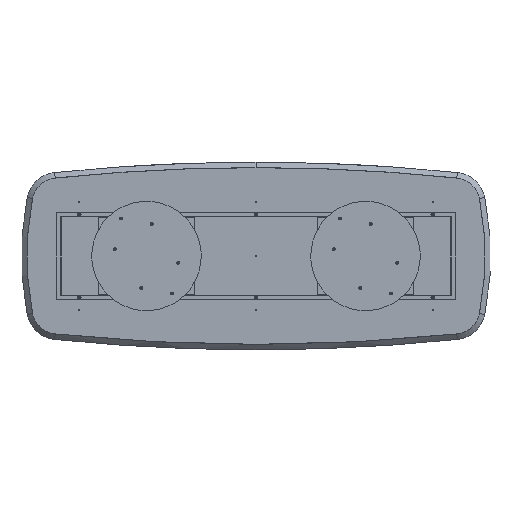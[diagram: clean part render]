
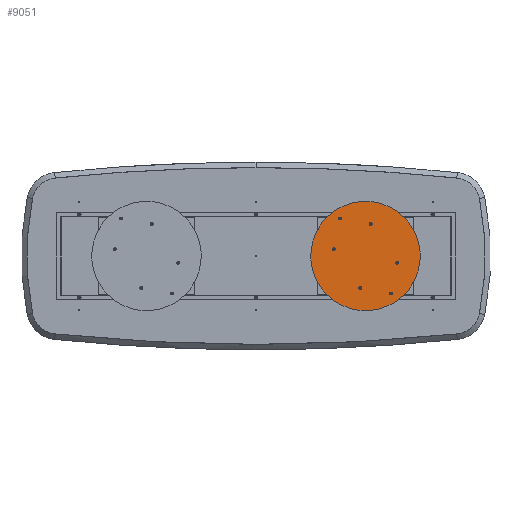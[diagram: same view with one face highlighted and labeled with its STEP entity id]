
A CAD part, front view. The second image highlights one B-rep face of the part: STEP entity #9051.
In plain terms, the highlighted planar face has unit normal (0, -1, 0).
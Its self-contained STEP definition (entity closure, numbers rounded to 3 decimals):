
#17 = EDGE_CURVE ( 'NONE', #19366, #8028, #12436, .T. ) ;
#266 = VERTEX_POINT ( 'NONE', #7503 ) ;
#972 = VERTEX_POINT ( 'NONE', #2990 ) ;
#976 = FACE_BOUND ( 'NONE', #16710, .T. ) ;
#1456 = AXIS2_PLACEMENT_3D ( 'NONE', #4798, #14311, #10478 ) ;
#1470 = CIRCLE ( 'NONE', #7011, 8.65 ) ;
#1703 = CARTESIAN_POINT ( 'NONE',  ( -290., 0., 0. ) ) ;
#1707 = DIRECTION ( 'NONE',  ( 0., 0., -1. ) ) ;
#1823 = EDGE_CURVE ( 'NONE', #12156, #16480, #21198, .T. ) ;
#1830 = EDGE_CURVE ( 'NONE', #18351, #18156, #5009, .T. ) ;
#2296 = EDGE_CURVE ( 'NONE', #8605, #266, #1470, .T. ) ;
#2464 = VERTEX_POINT ( 'NONE', #21655 ) ;
#2951 = AXIS2_PLACEMENT_3D ( 'NONE', #6777, #21279, #19190 ) ;
#2990 = CARTESIAN_POINT ( 'NONE',  ( 290., 0., 8.65 ) ) ;
#3119 = DIRECTION ( 'NONE',  ( 0., 0., -1. ) ) ;
#3242 = DIRECTION ( 'NONE',  ( 0., -1., 0. ) ) ;
#3315 = EDGE_CURVE ( 'NONE', #972, #2464, #15342, .T. ) ;
#3415 = CARTESIAN_POINT ( 'NONE',  ( 290., 0., 0. ) ) ;
#3458 = DIRECTION ( 'NONE',  ( 0., 0., -1. ) ) ;
#3556 = DIRECTION ( 'NONE',  ( 0., -1., 0. ) ) ;
#3906 = CIRCLE ( 'NONE', #5903, 8.65 ) ;
#4309 = CIRCLE ( 'NONE', #20112, 8.65 ) ;
#4516 = EDGE_CURVE ( 'NONE', #16480, #12156, #3906, .T. ) ;
#4604 = ORIENTED_EDGE ( 'NONE', *, *, #1823, .F. ) ;
#4798 = CARTESIAN_POINT ( 'NONE',  ( 0., 0., 0. ) ) ;
#4851 = ORIENTED_EDGE ( 'NONE', *, *, #14531, .F. ) ;
#5009 = CIRCLE ( 'NONE', #1456, 350. ) ;
#5237 = DIRECTION ( 'NONE',  ( 0., 0., -1. ) ) ;
#5251 = EDGE_LOOP ( 'NONE', ( #22126, #18058 ) ) ;
#5360 = AXIS2_PLACEMENT_3D ( 'NONE', #24171, #3242, #3119 ) ;
#5375 = EDGE_LOOP ( 'NONE', ( #20075, #4851 ) ) ;
#5421 = DIRECTION ( 'NONE',  ( 0., 0., -1. ) ) ;
#5618 = AXIS2_PLACEMENT_3D ( 'NONE', #10744, #18545, #5682 ) ;
#5682 = DIRECTION ( 'NONE',  ( 0., 0., -1. ) ) ;
#5903 = AXIS2_PLACEMENT_3D ( 'NONE', #16671, #18767, #5421 ) ;
#6082 = ORIENTED_EDGE ( 'NONE', *, *, #4516, .F. ) ;
#6455 = AXIS2_PLACEMENT_3D ( 'NONE', #20806, #22188, #5237 ) ;
#6563 = FACE_BOUND ( 'NONE', #24249, .T. ) ;
#6564 = DIRECTION ( 'NONE',  ( 0., -1., 0. ) ) ;
#6678 = FACE_OUTER_BOUND ( 'NONE', #18145, .T. ) ;
#6777 = CARTESIAN_POINT ( 'NONE',  ( -150., 0., -142.5 ) ) ;
#6957 = EDGE_LOOP ( 'NONE', ( #15834, #21674 ) ) ;
#7011 = AXIS2_PLACEMENT_3D ( 'NONE', #14256, #6564, #10374 ) ;
#7175 = CIRCLE ( 'NONE', #5618, 8.65 ) ;
#7503 = CARTESIAN_POINT ( 'NONE',  ( 150., 0., -133.85 ) ) ;
#7525 = CARTESIAN_POINT ( 'NONE',  ( 150., 0., -142.5 ) ) ;
#8028 = VERTEX_POINT ( 'NONE', #21084 ) ;
#8288 = PLANE ( 'NONE',  #9886 ) ;
#8320 = CARTESIAN_POINT ( 'NONE',  ( 150., 0., -151.15 ) ) ;
#8405 = FACE_BOUND ( 'NONE', #5375, .T. ) ;
#8510 = CIRCLE ( 'NONE', #5360, 8.65 ) ;
#8531 = FACE_BOUND ( 'NONE', #15014, .T. ) ;
#8605 = VERTEX_POINT ( 'NONE', #8320 ) ;
#8629 = AXIS2_PLACEMENT_3D ( 'NONE', #3415, #14932, #18641 ) ;
#9051 = ADVANCED_FACE ( 'NONE', ( #6563, #21643, #12810, #976, #8405, #8531, #6678 ), #8288, .F. ) ;
#9377 = DIRECTION ( 'NONE',  ( 0., 0., -1. ) ) ;
#9886 = AXIS2_PLACEMENT_3D ( 'NONE', #14212, #15838, #23387 ) ;
#10083 = DIRECTION ( 'NONE',  ( 0., 1., 0. ) ) ;
#10233 = CIRCLE ( 'NONE', #12205, 350. ) ;
#10374 = DIRECTION ( 'NONE',  ( 0., 0., -1. ) ) ;
#10475 = VERTEX_POINT ( 'NONE', #24127 ) ;
#10478 = DIRECTION ( 'NONE',  ( 0., 0., 1. ) ) ;
#10479 = EDGE_CURVE ( 'NONE', #8028, #19366, #7175, .T. ) ;
#10695 = CARTESIAN_POINT ( 'NONE',  ( -150., 0., 151.15 ) ) ;
#10744 = CARTESIAN_POINT ( 'NONE',  ( -150., 0., -142.5 ) ) ;
#11221 = AXIS2_PLACEMENT_3D ( 'NONE', #7525, #3556, #1707 ) ;
#12156 = VERTEX_POINT ( 'NONE', #10695 ) ;
#12205 = AXIS2_PLACEMENT_3D ( 'NONE', #21224, #10083, #23088 ) ;
#12254 = CARTESIAN_POINT ( 'NONE',  ( 0., 0., -350. ) ) ;
#12436 = CIRCLE ( 'NONE', #2951, 8.65 ) ;
#12742 = EDGE_CURVE ( 'NONE', #22683, #15655, #15934, .T. ) ;
#12810 = FACE_BOUND ( 'NONE', #5251, .T. ) ;
#12872 = CARTESIAN_POINT ( 'NONE',  ( 0., 0., 350. ) ) ;
#13575 = AXIS2_PLACEMENT_3D ( 'NONE', #20783, #22165, #3458 ) ;
#14212 = CARTESIAN_POINT ( 'NONE',  ( 0., 0., 0. ) ) ;
#14256 = CARTESIAN_POINT ( 'NONE',  ( 150., 0., -142.5 ) ) ;
#14311 = DIRECTION ( 'NONE',  ( 0., 1., 0. ) ) ;
#14531 = EDGE_CURVE ( 'NONE', #15655, #22683, #17972, .T. ) ;
#14634 = CARTESIAN_POINT ( 'NONE',  ( -150., 0., 133.85 ) ) ;
#14885 = AXIS2_PLACEMENT_3D ( 'NONE', #18026, #15935, #17898 ) ;
#14932 = DIRECTION ( 'NONE',  ( 0., -1., 0. ) ) ;
#15014 = EDGE_LOOP ( 'NONE', ( #6082, #4604 ) ) ;
#15069 = DIRECTION ( 'NONE',  ( 0., -1., 0. ) ) ;
#15342 = CIRCLE ( 'NONE', #8629, 8.65 ) ;
#15655 = VERTEX_POINT ( 'NONE', #22248 ) ;
#15834 = ORIENTED_EDGE ( 'NONE', *, *, #17, .F. ) ;
#15838 = DIRECTION ( 'NONE',  ( 0., 1., 0. ) ) ;
#15934 = CIRCLE ( 'NONE', #6455, 8.65 ) ;
#15935 = DIRECTION ( 'NONE',  ( 0., -1., 0. ) ) ;
#16289 = ORIENTED_EDGE ( 'NONE', *, *, #16527, .F. ) ;
#16480 = VERTEX_POINT ( 'NONE', #14634 ) ;
#16527 = EDGE_CURVE ( 'NONE', #23817, #10475, #8510, .T. ) ;
#16671 = CARTESIAN_POINT ( 'NONE',  ( -150., 0., 142.5 ) ) ;
#16710 = EDGE_LOOP ( 'NONE', ( #23359, #23718 ) ) ;
#16777 = CARTESIAN_POINT ( 'NONE',  ( -290., 0., -8.65 ) ) ;
#17898 = DIRECTION ( 'NONE',  ( 0., 0., -1. ) ) ;
#17972 = CIRCLE ( 'NONE', #13575, 8.65 ) ;
#18026 = CARTESIAN_POINT ( 'NONE',  ( -150., 0., 142.5 ) ) ;
#18058 = ORIENTED_EDGE ( 'NONE', *, *, #19009, .F. ) ;
#18145 = EDGE_LOOP ( 'NONE', ( #23304, #22113 ) ) ;
#18156 = VERTEX_POINT ( 'NONE', #12254 ) ;
#18351 = VERTEX_POINT ( 'NONE', #12872 ) ;
#18507 = DIRECTION ( 'NONE',  ( 0., -1., 0. ) ) ;
#18545 = DIRECTION ( 'NONE',  ( 0., -1., 0. ) ) ;
#18598 = CARTESIAN_POINT ( 'NONE',  ( 150., 0., 133.85 ) ) ;
#18627 = DIRECTION ( 'NONE',  ( 0., 0., -1. ) ) ;
#18641 = DIRECTION ( 'NONE',  ( 0., 0., -1. ) ) ;
#18767 = DIRECTION ( 'NONE',  ( 0., -1., 0. ) ) ;
#18844 = CIRCLE ( 'NONE', #19251, 8.65 ) ;
#19009 = EDGE_CURVE ( 'NONE', #266, #8605, #21903, .T. ) ;
#19190 = DIRECTION ( 'NONE',  ( 0., 0., -1. ) ) ;
#19251 = AXIS2_PLACEMENT_3D ( 'NONE', #1703, #15069, #9377 ) ;
#19366 = VERTEX_POINT ( 'NONE', #24428 ) ;
#20075 = ORIENTED_EDGE ( 'NONE', *, *, #12742, .F. ) ;
#20112 = AXIS2_PLACEMENT_3D ( 'NONE', #20356, #18507, #18627 ) ;
#20356 = CARTESIAN_POINT ( 'NONE',  ( 290., 0., 0. ) ) ;
#20783 = CARTESIAN_POINT ( 'NONE',  ( 150., 0., 142.5 ) ) ;
#20806 = CARTESIAN_POINT ( 'NONE',  ( 150., 0., 142.5 ) ) ;
#21084 = CARTESIAN_POINT ( 'NONE',  ( -150., 0., -133.85 ) ) ;
#21198 = CIRCLE ( 'NONE', #14885, 8.65 ) ;
#21224 = CARTESIAN_POINT ( 'NONE',  ( 0., 0., 0. ) ) ;
#21279 = DIRECTION ( 'NONE',  ( 0., -1., 0. ) ) ;
#21643 = FACE_BOUND ( 'NONE', #6957, .T. ) ;
#21655 = CARTESIAN_POINT ( 'NONE',  ( 290., 0., -8.65 ) ) ;
#21674 = ORIENTED_EDGE ( 'NONE', *, *, #10479, .F. ) ;
#21770 = ORIENTED_EDGE ( 'NONE', *, *, #21829, .F. ) ;
#21829 = EDGE_CURVE ( 'NONE', #10475, #23817, #18844, .T. ) ;
#21903 = CIRCLE ( 'NONE', #11221, 8.65 ) ;
#22113 = ORIENTED_EDGE ( 'NONE', *, *, #1830, .F. ) ;
#22126 = ORIENTED_EDGE ( 'NONE', *, *, #2296, .F. ) ;
#22165 = DIRECTION ( 'NONE',  ( 0., -1., 0. ) ) ;
#22188 = DIRECTION ( 'NONE',  ( 0., -1., 0. ) ) ;
#22248 = CARTESIAN_POINT ( 'NONE',  ( 150., 0., 151.15 ) ) ;
#22683 = VERTEX_POINT ( 'NONE', #18598 ) ;
#23088 = DIRECTION ( 'NONE',  ( 0., 0., 1. ) ) ;
#23304 = ORIENTED_EDGE ( 'NONE', *, *, #23904, .F. ) ;
#23359 = ORIENTED_EDGE ( 'NONE', *, *, #23422, .F. ) ;
#23387 = DIRECTION ( 'NONE',  ( 0., 0., 1. ) ) ;
#23422 = EDGE_CURVE ( 'NONE', #2464, #972, #4309, .T. ) ;
#23718 = ORIENTED_EDGE ( 'NONE', *, *, #3315, .F. ) ;
#23817 = VERTEX_POINT ( 'NONE', #16777 ) ;
#23904 = EDGE_CURVE ( 'NONE', #18156, #18351, #10233, .T. ) ;
#24127 = CARTESIAN_POINT ( 'NONE',  ( -290., 0., 8.65 ) ) ;
#24171 = CARTESIAN_POINT ( 'NONE',  ( -290., 0., 0. ) ) ;
#24249 = EDGE_LOOP ( 'NONE', ( #16289, #21770 ) ) ;
#24428 = CARTESIAN_POINT ( 'NONE',  ( -150., 0., -151.15 ) ) ;
